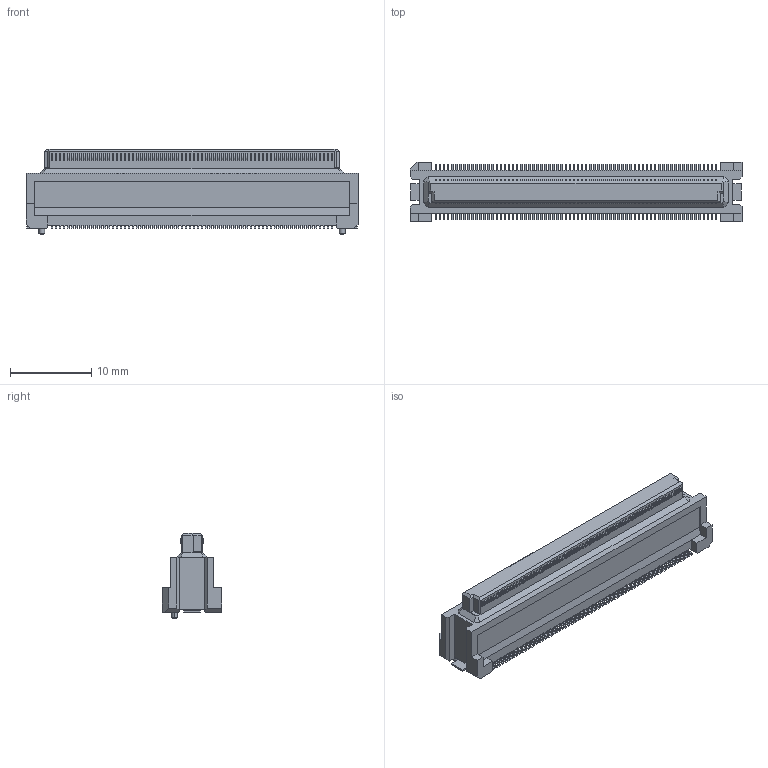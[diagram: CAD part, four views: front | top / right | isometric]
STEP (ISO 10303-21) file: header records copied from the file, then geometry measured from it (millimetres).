
FILE_DESCRIPTION(('CoCreate Modeling STEP Export'),'2;1');
FILE_NAME('P39934_DY11-140FS-1.stp','2017-08-09T17:21:02',(''),(''),'CoCreate Modeling STEP processor for AP214 (Solid Model)','CoCreate Modeling 17.0B 09-Oct-2010 (C) Parametric Technology GmbH','');
FILE_SCHEMA(('AUTOMOTIVE_DESIGN { 1 0 10303 214 1 1 1 1 }'));
Products named in the file (2): DY11-140FS-1
Assembly tree (1 placements, depth 2):
  DY11-140FS-1
    DY11-140FS-1
Bounding box: 40.9 x 7.3 x 10.5 mm (x, y, z)
Volume: 1619.2 mm3; surface area: 1556.7 mm2
Topology: 1 solids, 1 shells, 3238 faces, 9229 edges, 6138 vertices
Faces by surface type: plane 2378, cylinder 848, bspline 8, cone 4
Entity records: 101779 total; most frequent: CARTESIAN_POINT 18935, ORIENTED_EDGE 18458, DIRECTION 16020, EDGE_CURVE 9229, VECTOR 6894, LINE 6894, VERTEX_POINT 6138, AXIS2_PLACEMENT_3D 4563
